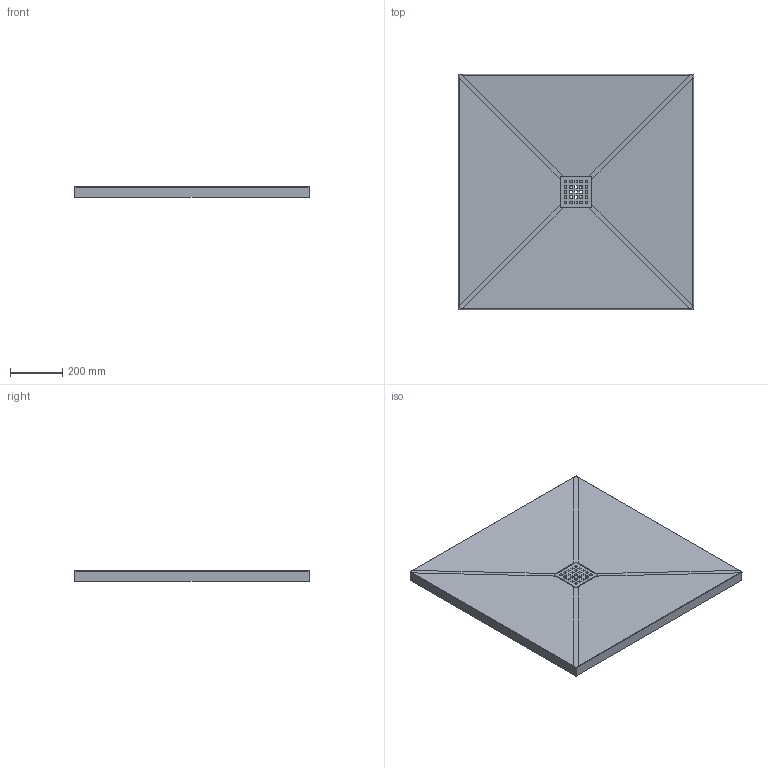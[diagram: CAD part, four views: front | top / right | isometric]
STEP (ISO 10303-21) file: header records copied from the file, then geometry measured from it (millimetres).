
FILE_DESCRIPTION (( 'STEP AP214' ), '1' );
FILE_NAME ('TRENT 90x90.STEP', '2024-05-13T11:57:14', ( '' ), ( '' ), 'SwSTEP 2.0', 'SolidWorks 2021', '' );
FILE_SCHEMA (( 'AUTOMOTIVE_DESIGN' ));
Length unit declared in the file: millimetre
Products named in the file (1): TRENT 90x90
Bounding box: 900 x 900 x 40.03 mm (x, y, z)
Volume: 11702648.1 mm3; surface area: 2057632.7 mm2
Topology: 3 solids, 3 shells, 825 faces, 1941 edges, 1119 vertices
Faces by surface type: cylinder 365, bspline 287, plane 173
Full cylindrical faces by diameter (mm): 66 x1
Entity records: 37801 total; most frequent: CARTESIAN_POINT 21363, ORIENTED_EDGE 3870, DIRECTION 2436, EDGE_CURVE 1935, VERTEX_POINT 1119, EDGE_LOOP 890, LINE 864, VECTOR 864
